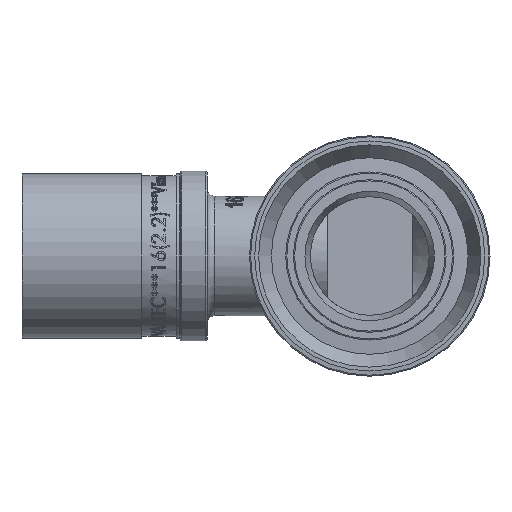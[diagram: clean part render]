
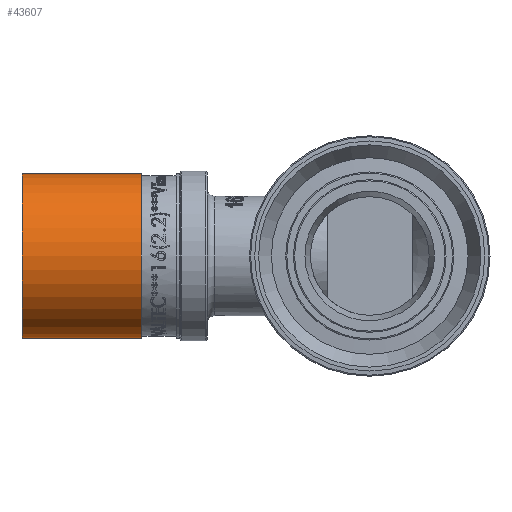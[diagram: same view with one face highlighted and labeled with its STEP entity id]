
A CAD part, left-side view. The second image highlights one B-rep face of the part: STEP entity #43607.
In plain terms, the highlighted cylindrical face has radius 10.7 mm (diameter 21.4 mm), a full revolution.
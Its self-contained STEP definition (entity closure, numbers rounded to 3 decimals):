
#3530=FACE_OUTER_BOUND('',#6133,.T.);
#6133=EDGE_LOOP('',(#35078,#35079,#35080,#35081,#35082,#35083));
#11730=LINE('',#77763,#14758);
#14758=VECTOR('',#50943,10.7);
#16639=CIRCLE('',#45977,10.7);
#16640=CIRCLE('',#45978,10.7);
#16641=CIRCLE('',#45980,10.7);
#16642=CIRCLE('',#45981,10.7);
#19872=VERTEX_POINT('',#77754);
#19873=VERTEX_POINT('',#77755);
#19874=VERTEX_POINT('',#77759);
#19875=VERTEX_POINT('',#77760);
#25409=EDGE_CURVE('',#19872,#19873,#16639,.T.);
#25410=EDGE_CURVE('',#19873,#19872,#16640,.T.);
#25411=EDGE_CURVE('',#19874,#19875,#16641,.T.);
#25412=EDGE_CURVE('',#19875,#19874,#16642,.T.);
#25413=EDGE_CURVE('',#19875,#19873,#11730,.T.);
#35078=ORIENTED_EDGE('',*,*,#25411,.F.);
#35079=ORIENTED_EDGE('',*,*,#25412,.F.);
#35080=ORIENTED_EDGE('',*,*,#25413,.T.);
#35081=ORIENTED_EDGE('',*,*,#25410,.T.);
#35082=ORIENTED_EDGE('',*,*,#25409,.T.);
#35083=ORIENTED_EDGE('',*,*,#25413,.F.);
#42363=CYLINDRICAL_SURFACE('',#45979,10.7);
#43607=ADVANCED_FACE('',(#3530),#42363,.T.);
#45977=AXIS2_PLACEMENT_3D('',#77756,#50933,#50934);
#45978=AXIS2_PLACEMENT_3D('',#77757,#50935,#50936);
#45979=AXIS2_PLACEMENT_3D('',#77758,#50937,#50938);
#45980=AXIS2_PLACEMENT_3D('',#77761,#50939,#50940);
#45981=AXIS2_PLACEMENT_3D('',#77762,#50941,#50942);
#50933=DIRECTION('center_axis',(0.,-1.,0.));
#50934=DIRECTION('ref_axis',(0.,0.,1.));
#50935=DIRECTION('center_axis',(0.,-1.,0.));
#50936=DIRECTION('ref_axis',(0.,0.,1.));
#50937=DIRECTION('center_axis',(0.,-1.,0.));
#50938=DIRECTION('ref_axis',(1.,0.,0.));
#50939=DIRECTION('center_axis',(0.,-1.,0.));
#50940=DIRECTION('ref_axis',(0.,0.,1.));
#50941=DIRECTION('center_axis',(0.,-1.,0.));
#50942=DIRECTION('ref_axis',(0.,0.,1.));
#50943=DIRECTION('',(0.,1.,0.));
#77754=CARTESIAN_POINT('',(10.7,45.112,0.));
#77755=CARTESIAN_POINT('',(-10.7,45.112,0.));
#77756=CARTESIAN_POINT('Origin',(0.,45.112,
0.));
#77757=CARTESIAN_POINT('Origin',(0.,45.112,
0.));
#77758=CARTESIAN_POINT('Origin',(0.,37.362,
0.));
#77759=CARTESIAN_POINT('',(10.7,29.612,0.));
#77760=CARTESIAN_POINT('',(-10.7,29.612,0.));
#77761=CARTESIAN_POINT('Origin',(0.,29.612,0.));
#77762=CARTESIAN_POINT('Origin',(0.,29.612,0.));
#77763=CARTESIAN_POINT('',(-10.7,37.362,0.));
